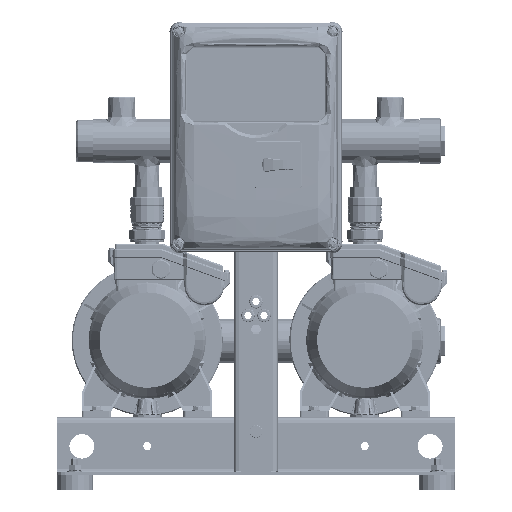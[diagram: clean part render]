
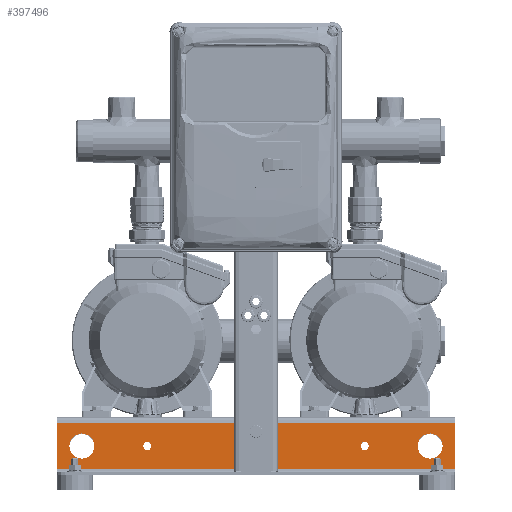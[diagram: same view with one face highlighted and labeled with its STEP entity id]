
A CAD part, top view. The second image highlights one B-rep face of the part: STEP entity #397496.
In plain terms, the highlighted planar face has unit normal (0, 0, 1) as drawn and (0, 0, -1) by its records, which use the part's own axes.
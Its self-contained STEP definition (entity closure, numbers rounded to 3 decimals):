
#391227=DIRECTION('',(1.,0.,0.));
#391228=VECTOR('',#391227,550.);
#391229=CARTESIAN_POINT('',(-275.,-8.,-150.));
#391230=LINE('',#391229,#391228);
#393457=DIRECTION('',(0.,1.,0.));
#393458=VECTOR('',#393457,64.);
#393459=CARTESIAN_POINT('',(-275.,-72.,-150.));
#393460=LINE('',#393459,#393458);
#393478=DIRECTION('',(1.,0.,0.));
#393479=VECTOR('',#393478,550.);
#393480=CARTESIAN_POINT('',(-275.,-72.,-150.));
#393481=LINE('',#393480,#393479);
#393508=DIRECTION('',(0.,1.,0.));
#393509=VECTOR('',#393508,26.);
#393510=CARTESIAN_POINT('',(-26.7,-40.,-150.));
#393511=LINE('',#393510,#393509);
#393515=DIRECTION('',(1.,0.,0.));
#393516=VECTOR('',#393515,3.6);
#393517=CARTESIAN_POINT('',(-30.3,-40.,-150.));
#393518=LINE('',#393517,#393516);
#393522=DIRECTION('',(0.,-1.,0.));
#393523=VECTOR('',#393522,26.);
#393524=CARTESIAN_POINT('',(-30.3,-14.,-150.));
#393525=LINE('',#393524,#393523);
#393529=DIRECTION('',(-1.,0.,0.));
#393530=VECTOR('',#393529,3.6);
#393531=CARTESIAN_POINT('',(-26.7,-14.,-150.));
#393532=LINE('',#393531,#393530);
#393536=DIRECTION('',(0.,1.,0.));
#393537=VECTOR('',#393536,26.);
#393538=CARTESIAN_POINT('',(30.3,-40.,-150.));
#393539=LINE('',#393538,#393537);
#393543=DIRECTION('',(1.,0.,0.));
#393544=VECTOR('',#393543,3.6);
#393545=CARTESIAN_POINT('',(26.7,-40.,-150.));
#393546=LINE('',#393545,#393544);
#393550=DIRECTION('',(0.,-1.,0.));
#393551=VECTOR('',#393550,26.);
#393552=CARTESIAN_POINT('',(26.7,-14.,-150.));
#393553=LINE('',#393552,#393551);
#393557=DIRECTION('',(-1.,0.,0.));
#393558=VECTOR('',#393557,3.6);
#393559=CARTESIAN_POINT('',(30.3,-14.,-150.));
#393560=LINE('',#393559,#393558);
#393564=CARTESIAN_POINT('',(0.,-20.,-150.));
#393565=DIRECTION('',(0.,0.,-1.));
#393566=DIRECTION('',(1.,0.,0.));
#393567=AXIS2_PLACEMENT_3D('',#393564,#393565,#393566);
#393572=CARTESIAN_POINT('',(0.,-20.,-150.));
#393573=DIRECTION('',(0.,0.,-1.));
#393574=DIRECTION('',(-1.,0.,0.));
#393575=AXIS2_PLACEMENT_3D('',#393572,#393573,#393574);
#393580=CARTESIAN_POINT('',(-240.,-40.,-150.));
#393581=DIRECTION('',(0.,0.,1.));
#393582=DIRECTION('',(-1.,0.,0.));
#393583=AXIS2_PLACEMENT_3D('',#393580,#393581,#393582);
#393588=CARTESIAN_POINT('',(-240.,-40.,-150.));
#393589=DIRECTION('',(0.,0.,1.));
#393590=DIRECTION('',(1.,0.,0.));
#393591=AXIS2_PLACEMENT_3D('',#393588,#393589,#393590);
#393596=CARTESIAN_POINT('',(240.,-40.,-150.));
#393597=DIRECTION('',(0.,0.,1.));
#393598=DIRECTION('',(-1.,0.,0.));
#393599=AXIS2_PLACEMENT_3D('',#393596,#393597,#393598);
#393604=CARTESIAN_POINT('',(240.,-40.,-150.));
#393605=DIRECTION('',(0.,0.,1.));
#393606=DIRECTION('',(1.,0.,0.));
#393607=AXIS2_PLACEMENT_3D('',#393604,#393605,#393606);
#393612=CARTESIAN_POINT('',(-150.,-40.,-150.));
#393613=DIRECTION('',(0.,0.,1.));
#393614=DIRECTION('',(1.,0.,0.));
#393615=AXIS2_PLACEMENT_3D('',#393612,#393613,#393614);
#393620=CARTESIAN_POINT('',(-150.,-40.,-150.));
#393621=DIRECTION('',(0.,0.,1.));
#393622=DIRECTION('',(-1.,0.,0.));
#393623=AXIS2_PLACEMENT_3D('',#393620,#393621,#393622);
#393628=CARTESIAN_POINT('',(150.,-40.,-150.));
#393629=DIRECTION('',(0.,0.,-1.));
#393630=DIRECTION('',(-1.,0.,0.));
#393631=AXIS2_PLACEMENT_3D('',#393628,#393629,#393630);
#393636=CARTESIAN_POINT('',(150.,-40.,-150.));
#393637=DIRECTION('',(0.,0.,-1.));
#393638=DIRECTION('',(1.,0.,0.));
#393639=AXIS2_PLACEMENT_3D('',#393636,#393637,#393638);
#393658=DIRECTION('',(0.,1.,0.));
#393659=VECTOR('',#393658,64.);
#393660=CARTESIAN_POINT('',(275.,-72.,-150.));
#393661=LINE('',#393660,#393659);
#395223=CARTESIAN_POINT('',(-275.,-72.,-150.));
#395224=CARTESIAN_POINT('',(-275.,-8.,-150.));
#395225=VERTEX_POINT('',#395223);
#395226=VERTEX_POINT('',#395224);
#395227=CARTESIAN_POINT('',(275.,-72.,-150.));
#395228=CARTESIAN_POINT('',(275.,-8.,-150.));
#395229=VERTEX_POINT('',#395227);
#395230=VERTEX_POINT('',#395228);
#395583=CARTESIAN_POINT('',(-26.7,-40.,-150.));
#395584=CARTESIAN_POINT('',(-26.7,-14.,-150.));
#395585=VERTEX_POINT('',#395583);
#395586=VERTEX_POINT('',#395584);
#395587=CARTESIAN_POINT('',(-30.3,-14.,-150.));
#395588=VERTEX_POINT('',#395587);
#395589=CARTESIAN_POINT('',(-30.3,-40.,-150.));
#395590=VERTEX_POINT('',#395589);
#395591=CARTESIAN_POINT('',(30.3,-40.,-150.));
#395592=CARTESIAN_POINT('',(30.3,-14.,-150.));
#395593=VERTEX_POINT('',#395591);
#395594=VERTEX_POINT('',#395592);
#395595=CARTESIAN_POINT('',(26.7,-14.,-150.));
#395596=VERTEX_POINT('',#395595);
#395597=CARTESIAN_POINT('',(26.7,-40.,-150.));
#395598=VERTEX_POINT('',#395597);
#395615=CARTESIAN_POINT('',(6.25,-20.,-150.));
#395616=CARTESIAN_POINT('',(-6.25,-20.,-150.));
#395617=VERTEX_POINT('',#395615);
#395618=VERTEX_POINT('',#395616);
#395639=CARTESIAN_POINT('',(-257.5,-40.,-150.));
#395640=CARTESIAN_POINT('',(-222.5,-40.,-150.));
#395641=VERTEX_POINT('',#395639);
#395642=VERTEX_POINT('',#395640);
#395643=CARTESIAN_POINT('',(222.5,-40.,-150.));
#395644=CARTESIAN_POINT('',(257.5,-40.,-150.));
#395645=VERTEX_POINT('',#395643);
#395646=VERTEX_POINT('',#395644);
#395739=CARTESIAN_POINT('',(-143.75,-40.,-150.));
#395740=CARTESIAN_POINT('',(-156.25,-40.,-150.));
#395741=VERTEX_POINT('',#395739);
#395742=VERTEX_POINT('',#395740);
#395751=CARTESIAN_POINT('',(143.75,-40.,-150.));
#395753=VERTEX_POINT('',#395751);
#395759=CARTESIAN_POINT('',(156.25,-40.,-150.));
#395761=VERTEX_POINT('',#395759);
#397434=CARTESIAN_POINT('',(-275.,-76.,-150.));
#397435=DIRECTION('',(0.,0.,-1.));
#397436=DIRECTION('',(0.,1.,0.));
#397437=AXIS2_PLACEMENT_3D('',#397434,#397435,#397436);
#397438=PLANE('',#397437);
#397439=ORIENTED_EDGE('',*,*,#397387,.F.);
#397440=ORIENTED_EDGE('',*,*,#397424,.T.);
#397442=ORIENTED_EDGE('',*,*,#397441,.T.);
#397443=ORIENTED_EDGE('',*,*,#396495,.F.);
#397444=EDGE_LOOP('',(#397439,#397440,#397442,#397443));
#397445=FACE_OUTER_BOUND('',#397444,.F.);
#397447=ORIENTED_EDGE('',*,*,#397446,.F.);
#397449=ORIENTED_EDGE('',*,*,#397448,.F.);
#397451=ORIENTED_EDGE('',*,*,#397450,.F.);
#397453=ORIENTED_EDGE('',*,*,#397452,.F.);
#397454=EDGE_LOOP('',(#397447,#397449,#397451,#397453));
#397455=FACE_BOUND('',#397454,.F.);
#397457=ORIENTED_EDGE('',*,*,#397456,.F.);
#397459=ORIENTED_EDGE('',*,*,#397458,.F.);
#397461=ORIENTED_EDGE('',*,*,#397460,.F.);
#397463=ORIENTED_EDGE('',*,*,#397462,.F.);
#397464=EDGE_LOOP('',(#397457,#397459,#397461,#397463));
#397465=FACE_BOUND('',#397464,.F.);
#397467=ORIENTED_EDGE('',*,*,#397466,.T.);
#397469=ORIENTED_EDGE('',*,*,#397468,.T.);
#397470=EDGE_LOOP('',(#397467,#397469));
#397471=FACE_BOUND('',#397470,.F.);
#397473=ORIENTED_EDGE('',*,*,#397472,.F.);
#397475=ORIENTED_EDGE('',*,*,#397474,.F.);
#397476=EDGE_LOOP('',(#397473,#397475));
#397477=FACE_BOUND('',#397476,.F.);
#397479=ORIENTED_EDGE('',*,*,#397478,.F.);
#397481=ORIENTED_EDGE('',*,*,#397480,.F.);
#397482=EDGE_LOOP('',(#397479,#397481));
#397483=FACE_BOUND('',#397482,.F.);
#397485=ORIENTED_EDGE('',*,*,#397484,.F.);
#397487=ORIENTED_EDGE('',*,*,#397486,.F.);
#397488=EDGE_LOOP('',(#397485,#397487));
#397489=FACE_BOUND('',#397488,.F.);
#397491=ORIENTED_EDGE('',*,*,#397490,.T.);
#397493=ORIENTED_EDGE('',*,*,#397492,.T.);
#397494=EDGE_LOOP('',(#397491,#397493));
#397495=FACE_BOUND('',#397494,.F.);
#393568=CIRCLE('',#393567,6.25);
#393576=CIRCLE('',#393575,6.25);
#393584=CIRCLE('',#393583,17.5);
#393592=CIRCLE('',#393591,17.5);
#393600=CIRCLE('',#393599,17.5);
#393608=CIRCLE('',#393607,17.5);
#393616=CIRCLE('',#393615,6.25);
#393624=CIRCLE('',#393623,6.25);
#393632=CIRCLE('',#393631,6.25);
#393640=CIRCLE('',#393639,6.25);
#396495=EDGE_CURVE('',#395226,#395230,#391230,.T.);
#397387=EDGE_CURVE('',#395225,#395226,#393460,.T.);
#397424=EDGE_CURVE('',#395225,#395229,#393481,.T.);
#397441=EDGE_CURVE('',#395229,#395230,#393661,.T.);
#397446=EDGE_CURVE('',#395585,#395586,#393511,.T.);
#397448=EDGE_CURVE('',#395590,#395585,#393518,.T.);
#397450=EDGE_CURVE('',#395588,#395590,#393525,.T.);
#397452=EDGE_CURVE('',#395586,#395588,#393532,.T.);
#397456=EDGE_CURVE('',#395593,#395594,#393539,.T.);
#397458=EDGE_CURVE('',#395598,#395593,#393546,.T.);
#397460=EDGE_CURVE('',#395596,#395598,#393553,.T.);
#397462=EDGE_CURVE('',#395594,#395596,#393560,.T.);
#397466=EDGE_CURVE('',#395617,#395618,#393568,.T.);
#397468=EDGE_CURVE('',#395618,#395617,#393576,.T.);
#397472=EDGE_CURVE('',#395641,#395642,#393584,.T.);
#397474=EDGE_CURVE('',#395642,#395641,#393592,.T.);
#397478=EDGE_CURVE('',#395645,#395646,#393600,.T.);
#397480=EDGE_CURVE('',#395646,#395645,#393608,.T.);
#397484=EDGE_CURVE('',#395741,#395742,#393616,.T.);
#397486=EDGE_CURVE('',#395742,#395741,#393624,.T.);
#397490=EDGE_CURVE('',#395753,#395761,#393632,.T.);
#397492=EDGE_CURVE('',#395761,#395753,#393640,.T.);
#397496=ADVANCED_FACE('',(#397445,#397455,#397465,#397471,#397477,#397483,
#397489,#397495),#397438,.T.);
